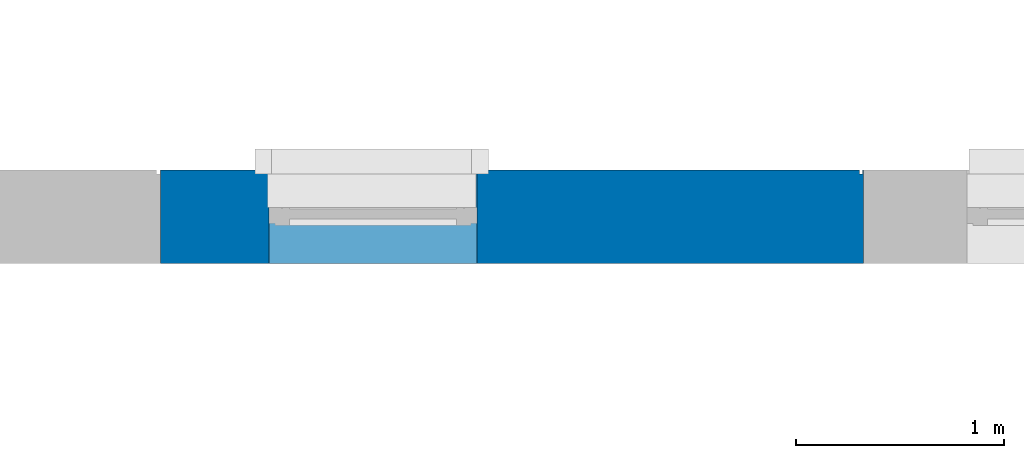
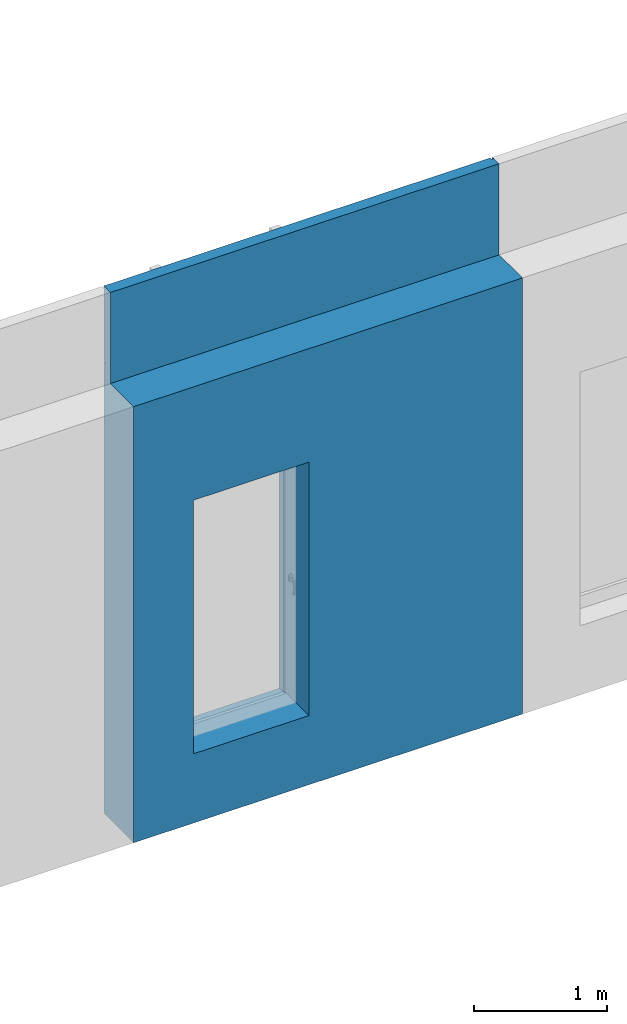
# One storey, part 22 of 33: 1 wall, 4 openings.
"""IFC2X3 building model written with IfcOpenShell, lengths in millimetres."""

from ifc_helpers import new_model, entity, si_unit, converted_unit, derived_unit, direction, frame, frame_2d, origin, origin_2d_with_axis, place, context, subcontext, project, spatial, polyline, rectangle, extrude, clip, bounded_halfspace, faceted_brep, material, layer, layer_set, layer_usage, type_object, element, save


model = new_model("IFC2X3")

# Units and contexts
model_context = context("Model", 3, precision=0.01, world=origin(), true_north=direction((6.12303176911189e-17, 1.0)))
body_context = subcontext(model_context, "Body", "Model", "MODEL_VIEW")
ifc_project = project(units=[si_unit("LENGTHUNIT", "METRE", prefix="MILLI"), si_unit("AREAUNIT", "SQUARE_METRE"), si_unit("VOLUMEUNIT", "CUBIC_METRE"), converted_unit("PLANEANGLEUNIT", "DEGREE", entity("IfcRatioMeasure", 0.0174532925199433), si_unit("PLANEANGLEUNIT", "RADIAN"), dimensions=[0, 0, 0, 0, 0, 0, 0]), si_unit("MASSUNIT", "GRAM", prefix="KILO"), derived_unit("MASSDENSITYUNIT", [(si_unit("MASSUNIT", "GRAM", prefix="KILO"), 1), (si_unit("LENGTHUNIT", "METRE"), -3)]), si_unit("TIMEUNIT", "SECOND"), si_unit("FREQUENCYUNIT", "HERTZ"), si_unit("THERMODYNAMICTEMPERATUREUNIT", "DEGREE_CELSIUS"), derived_unit("THERMALTRANSMITTANCEUNIT", [(si_unit("MASSUNIT", "GRAM", prefix="KILO"), 1), (si_unit("THERMODYNAMICTEMPERATUREUNIT", "KELVIN"), -1), (si_unit("TIMEUNIT", "SECOND"), -3)]), derived_unit("VOLUMETRICFLOWRATEUNIT", [(si_unit("LENGTHUNIT", "METRE"), 3), (si_unit("TIMEUNIT", "SECOND"), -1)]), si_unit("ELECTRICCURRENTUNIT", "AMPERE"), si_unit("ELECTRICVOLTAGEUNIT", "VOLT"), si_unit("POWERUNIT", "WATT"), si_unit("FORCEUNIT", "NEWTON", prefix="KILO"), si_unit("ILLUMINANCEUNIT", "LUX"), si_unit("LUMINOUSFLUXUNIT", "LUMEN"), si_unit("LUMINOUSINTENSITYUNIT", "CANDELA"), derived_unit("USERDEFINED", [(si_unit("MASSUNIT", "GRAM", prefix="KILO"), -1), (si_unit("LENGTHUNIT", "METRE"), -2), (si_unit("TIMEUNIT", "SECOND"), 3), (si_unit("LUMINOUSFLUXUNIT", "LUMEN"), 1)]), derived_unit("LINEARVELOCITYUNIT", [(si_unit("LENGTHUNIT", "METRE"), 1), (si_unit("TIMEUNIT", "SECOND"), -1)]), si_unit("PRESSUREUNIT", "PASCAL"), derived_unit("USERDEFINED", [(si_unit("LENGTHUNIT", "METRE"), -2), (si_unit("MASSUNIT", "GRAM", prefix="KILO"), 1), (si_unit("TIMEUNIT", "SECOND"), -2)])], contexts=[model_context])

# Site, building, storey
site_placement = place(None, origin())
site = spatial("IfcSite", under=ifc_project, at=site_placement, Name="Default", CompositionType="ELEMENT")
building_placement = place(site_placement, origin())
building = spatial("IfcBuilding", under=site, at=building_placement, CompositionType="ELEMENT")
storey_placement = place(building_placement, frame((0.0, 0.0, 4000.0)))
storey = spatial("IfcBuildingStorey", under=building, at=storey_placement, Name="2. KORRUS", CompositionType="ELEMENT", Elevation=4000.0)

# Wall, openings
ifc_material_1 = material(Name="RECKLI 1 173 THUR by Polantis 2016-toon3")
ifc_layer_1 = layer(ifc_material_1, 100.0)
ifc_material_2 = material(Name="Soojusisolatsioon EPS")
ifc_layer_2 = layer(ifc_material_2, 200.0)
ifc_material_3 = material(Name="r/b")
ifc_layer_3 = layer(ifc_material_3, 150.0)
ifc_layer_set = layer_set([ifc_layer_1, ifc_layer_2, ifc_layer_3], Name="Basic Wall:VS-1_toon-b")
ifc_layer_usage = layer_usage(ifc_layer_set, "AXIS2", "NEGATIVE", 225.0)
wall_type = type_object("IfcWallType", Name="Basic Wall:VS-1_toon-b", PredefinedType="STANDARD", material=ifc_layer_set)
wall_placement = place(storey_placement, frame((14880.3475962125, 21725.0517807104, -135.0)))
wall = element("IfcWallStandardCase", 1, at=wall_placement, inside=storey, type_object=wall_type, material=ifc_layer_usage, Name="Basic Wall:VS-1_toon-b", ObjectType="Basic Wall:VS-1_toon-b", context=body_context, shape_type="Clipping", body=[
    clip(clip(extrude(rectangle(XDim=3373.00529480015, YDim=450.000000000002, at=frame_2d((1686.50264740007, 1.09423581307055e-12), x_axis=(-1.0, 0.0))), origin(), (0.0, 0.0, 1.0), 4835.0), bounded_halfspace(frame((0.0, -225.0, 4000.0), z_axis=(0.0, 0.0, 1.0), x_axis=(0.0, 1.0, 0.0)), False, frame((0.0, -225.0, 4000.0)), polyline([(0.0, 0.0), (3373.00529480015, 0.0), (3373.00529480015, 350.0), (0.0, 350.0), (0.0, 0.0)]))), bounded_halfspace(frame((0.0, -225.0, 4000.0), z_axis=(0.0, 0.0, 1.0), x_axis=(0.0, 1.0, 0.0)), False, frame((0.0, -225.0, 4000.0)), polyline([(0.0, 0.0), (3373.00529480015, 0.0), (3373.00529480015, 350.0), (0.0, 350.0), (0.0, 0.0)]))),
])
opening_1_placement = place(wall_placement, frame((-15330.3475962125, -22175.0517807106, 4.0)))
element("IfcOpeningElement", 2, at=opening_1_placement, cuts=wall, Name="Basic Wall:VS-1_toon-b", ObjectType="Opening", context=body_context, shape_type="Brep", body=[
    faceted_brep([(11850.0, 20.0, 16.0), (11850.0, 0.0, 16.0), (11850.0, 0.0, 0.0), (11850.0, 20.0, 0.0), (4260.0, 20.0, 16.0), (4260.0, 20.0, 0.0), (4260.0, 0.0, 0.0), (4260.0, 0.0, 16.0)], [[[0, 1, 2, 3]], [[4, 5, 6, 7]], [[1, 0, 4, 7]], [[2, 1, 7, 6]], [[3, 2, 6, 5]], [[0, 3, 5, 4]]]),
    faceted_brep([(20.0, 28480.0, 16.0), (20.0, 28480.0, 0.0), (0.0, 28500.0, 0.0), (0.0, 28500.0, 16.0), (20.0, 23740.0, 16.0), (0.0, 23740.0, 16.0), (0.0, 23740.0, 0.0), (20.0, 23740.0, 0.0)], [[[0, 1, 2, 3]], [[4, 5, 6, 7]], [[1, 0, 4, 7]], [[2, 1, 7, 6]], [[3, 2, 6, 5]], [[0, 3, 5, 4]]]),
    faceted_brep([(10080.0, 22380.0517807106, 16.0), (10100.0, 22400.0517807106, 16.0), (10100.0, 22400.0517807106, 0.0), (10080.0, 22380.0517807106, 0.0), (15330.3475962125, 22380.0517807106, 16.0), (15330.3475962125, 22380.0517807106, 0.0), (15330.3475962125, 22400.0517807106, 0.0), (15330.3475962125, 22400.0517807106, 16.0)], [[[0, 1, 2, 3]], [[4, 5, 6, 7]], [[1, 0, 4, 7]], [[2, 1, 7, 6]], [[3, 2, 6, 5]], [[0, 3, 5, 4]]]),
    faceted_brep([(20.0, 28480.0, 16.0), (0.0, 28500.0, 16.0), (0.0, 28500.0, 0.0), (20.0, 28480.0, 0.0), (4360.0, 28480.0, 16.0), (4360.0, 28480.0, 0.0), (4360.0, 28500.0, 0.0), (4360.0, 28500.0, 16.0)], [[[0, 1, 2, 3]], [[4, 5, 6, 7]], [[1, 0, 4, 7]], [[2, 1, 7, 6]], [[3, 2, 6, 5]], [[0, 3, 5, 4]]]),
    faceted_brep([(40380.0, 20.0, 16.0), (40400.0, 0.0, 16.0), (40400.0, 0.0, 0.0), (40380.0, 20.0, 0.0), (35250.0, 20.0, 16.0), (35250.0, 20.0, 0.0), (35250.0, 0.0, 0.0), (35250.0, 0.0, 16.0)], [[[0, 1, 2, 3]], [[4, 5, 6, 7]], [[1, 0, 4, 7]], [[2, 1, 7, 6]], [[3, 2, 6, 5]], [[0, 3, 5, 4]]]),
    faceted_brep([(34420.1035702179, 22380.0517807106, 16.0), (34420.1035702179, 22400.0517807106, 16.0), (34420.1035702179, 22400.0517807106, 0.0), (34420.1035702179, 22380.0517807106, 0.0), (40380.0, 22380.0517807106, 16.0), (40380.0, 22380.0517807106, 0.0), (40400.0, 22400.0517807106, 0.0), (40400.0, 22400.0517807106, 16.0)], [[[0, 1, 2, 3]], [[4, 5, 6, 7]], [[1, 0, 4, 7]], [[2, 1, 7, 6]], [[3, 2, 6, 5]], [[0, 3, 5, 4]]]),
    faceted_brep([(29113.2161487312, 22380.0517807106, 16.0), (29113.2161487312, 22400.0517807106, 16.0), (29113.2161487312, 22400.0517807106, 0.0), (29113.2161487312, 22380.0517807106, 0.0), (34420.1035702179, 22380.0517807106, 16.0), (34420.1035702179, 22380.0517807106, 0.0), (34420.1035702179, 22400.0517807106, 0.0), (34420.1035702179, 22400.0517807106, 16.0)], [[[0, 1, 2, 3]], [[4, 5, 6, 7]], [[1, 0, 4, 7]], [[2, 1, 7, 6]], [[3, 2, 6, 5]], [[0, 3, 5, 4]]]),
    faceted_brep([(10080.0, 28480.0, 16.0), (10100.0, 28500.0, 16.0), (10100.0, 28500.0, 0.0), (10080.0, 28480.0, 0.0), (10080.0, 22380.0517807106, 16.0), (10080.0, 22380.0517807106, 0.0), (10100.0, 22400.0517807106, 0.0), (10100.0, 22400.0517807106, 16.0)], [[[0, 1, 2, 3]], [[4, 5, 6, 7]], [[1, 0, 4, 7]], [[2, 1, 7, 6]], [[3, 2, 6, 5]], [[0, 3, 5, 4]]]),
    faceted_brep([(4260.0, 20.0, 16.0), (4260.0, 0.0, 16.0), (4260.0, 0.0, 0.0), (4260.0, 20.0, 0.0), (0.0, 20.0, 16.0), (0.0, 20.0, 0.0), (0.0, 0.0, 0.0), (0.0, 0.0, 16.0)], [[[0, 1, 2, 3]], [[4, 5, 6, 7]], [[1, 0, 4, 7]], [[2, 1, 7, 6]], [[3, 2, 6, 5]], [[0, 3, 5, 4]]]),
    faceted_brep([(40380.0, 4865.0, 16.0), (40400.0, 4865.0, 16.0), (40400.0, 4865.0, 0.0), (40380.0, 4865.0, 0.0), (40380.0, 20.0, 16.0), (40380.0, 20.0, 0.0), (40400.0, 0.0, 0.0), (40400.0, 0.0, 16.0)], [[[0, 1, 2, 3]], [[4, 5, 6, 7]], [[1, 0, 4, 7]], [[2, 1, 7, 6]], [[3, 2, 6, 5]], [[0, 3, 5, 4]]]),
    faceted_brep([(40380.0, 9093.33000000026, 16.0), (40400.0, 9093.33000000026, 16.0), (40400.0, 9093.33000000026, 0.0), (40380.0, 9093.33000000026, 0.0), (40380.0, 4865.0, 16.0), (40380.0, 4865.0, 0.0), (40400.0, 4865.0, 0.0), (40400.0, 4865.0, 16.0)], [[[0, 1, 2, 3]], [[4, 5, 6, 7]], [[1, 0, 4, 7]], [[2, 1, 7, 6]], [[3, 2, 6, 5]], [[0, 3, 5, 4]]]),
    faceted_brep([(40380.0, 13210.0, 16.0), (40400.0, 13210.0, 16.0), (40400.0, 13210.0, 0.0), (40380.0, 13210.0, 0.0), (40380.0, 9093.33000000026, 16.0), (40380.0, 9093.33000000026, 0.0), (40400.0, 9093.33000000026, 0.0), (40400.0, 9093.33000000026, 16.0)], [[[0, 1, 2, 3]], [[4, 5, 6, 7]], [[1, 0, 4, 7]], [[2, 1, 7, 6]], [[3, 2, 6, 5]], [[0, 3, 5, 4]]]),
    faceted_brep([(40380.0, 16240.0, 16.0), (40400.0, 16240.0, 16.0), (40400.0, 16240.0, 0.0), (40380.0, 16240.0, 0.0), (40380.0, 13210.0, 16.0), (40380.0, 13210.0, 0.0), (40400.0, 13210.0, 0.0), (40400.0, 13210.0, 16.0)], [[[0, 1, 2, 3]], [[4, 5, 6, 7]], [[1, 0, 4, 7]], [[2, 1, 7, 6]], [[3, 2, 6, 5]], [[0, 3, 5, 4]]]),
    faceted_brep([(40380.0, 22380.0517807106, 16.0), (40400.0, 22400.0517807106, 16.0), (40400.0, 22400.0517807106, 0.0), (40380.0, 22380.0517807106, 0.0), (40380.0, 16240.0, 16.0), (40380.0, 16240.0, 0.0), (40400.0, 16240.0, 0.0), (40400.0, 16240.0, 16.0)], [[[0, 1, 2, 3]], [[4, 5, 6, 7]], [[1, 0, 4, 7]], [[2, 1, 7, 6]], [[3, 2, 6, 5]], [[0, 3, 5, 4]]]),
    faceted_brep([(22535.0, 22380.0517807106, 16.0), (22535.0, 22400.0517807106, 16.0), (22535.0, 22400.0517807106, 0.0), (22535.0, 22380.0517807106, 0.0), (29113.2161487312, 22380.0517807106, 16.0), (29113.2161487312, 22380.0517807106, 0.0), (29113.2161487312, 22400.0517807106, 0.0), (29113.2161487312, 22400.0517807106, 16.0)], [[[0, 1, 2, 3]], [[4, 5, 6, 7]], [[1, 0, 4, 7]], [[2, 1, 7, 6]], [[3, 2, 6, 5]], [[0, 3, 5, 4]]]),
    faceted_brep([(18703.3528910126, 22380.0517807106, 16.0), (18703.3528910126, 22400.0517807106, 16.0), (18703.3528910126, 22400.0517807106, 0.0), (18703.3528910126, 22380.0517807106, 0.0), (22535.0, 22380.0517807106, 16.0), (22535.0, 22380.0517807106, 0.0), (22535.0, 22400.0517807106, 0.0), (22535.0, 22400.0517807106, 16.0)], [[[0, 1, 2, 3]], [[4, 5, 6, 7]], [[1, 0, 4, 7]], [[2, 1, 7, 6]], [[3, 2, 6, 5]], [[0, 3, 5, 4]]]),
    faceted_brep([(15330.3475962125, 22380.0517807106, 16.0), (15330.3475962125, 22400.0517807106, 16.0), (15330.3475962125, 22400.0517807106, 0.0), (15330.3475962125, 22380.0517807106, 0.0), (18703.3528910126, 22380.0517807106, 16.0), (18703.3528910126, 22380.0517807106, 0.0), (18703.3528910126, 22400.0517807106, 0.0), (18703.3528910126, 22400.0517807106, 16.0)], [[[0, 1, 2, 3]], [[4, 5, 6, 7]], [[1, 0, 4, 7]], [[2, 1, 7, 6]], [[3, 2, 6, 5]], [[0, 3, 5, 4]]]),
    faceted_brep([(4360.0, 28480.0, 16.0), (4360.0, 28500.0, 16.0), (4360.0, 28500.0, 0.0), (4360.0, 28480.0, 0.0), (10080.0, 28480.0, 16.0), (10080.0, 28480.0, 0.0), (10100.0, 28500.0, 0.0), (10100.0, 28500.0, 16.0)], [[[0, 1, 2, 3]], [[4, 5, 6, 7]], [[1, 0, 4, 7]], [[2, 1, 7, 6]], [[3, 2, 6, 5]], [[0, 3, 5, 4]]]),
    faceted_brep([(20.0, 23740.0, 16.0), (20.0, 23740.0, 0.0), (0.0, 23740.0, 0.0), (0.0, 23740.0, 16.0), (20.0, 16890.0006972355, 16.0), (0.0, 16890.0006972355, 16.0), (0.0, 16890.0006972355, 0.0), (20.0, 16890.0006972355, 0.0)], [[[0, 1, 2, 3]], [[4, 5, 6, 7]], [[1, 0, 4, 7]], [[2, 1, 7, 6]], [[3, 2, 6, 5]], [[0, 3, 5, 4]]]),
    faceted_brep([(20.0, 16890.0006972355, 16.0), (20.0, 16890.0006972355, 0.0), (0.0, 16890.0006972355, 0.0), (0.0, 16890.0006972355, 16.0), (20.0, 13460.0, 16.0), (0.0, 13460.0, 16.0), (0.0, 13460.0, 0.0), (20.0, 13460.0, 0.0)], [[[0, 1, 2, 3]], [[4, 5, 6, 7]], [[1, 0, 4, 7]], [[2, 1, 7, 6]], [[3, 2, 6, 5]], [[0, 3, 5, 4]]]),
])
opening_2_placement = place(wall_placement, origin())
element("IfcOpeningElement", 3, at=opening_2_placement, cuts=wall, Name="Basic Wall:VS-1_toon-b", ObjectType="Recess", context=body_context, shape_type="SweptSolid", body=[
    extrude(rectangle(XDim=4265.0, YDim=16.0000000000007, at=origin_2d_with_axis()), frame((3361.00529480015, 205.0, -2132.5), z_axis=(0.0, 1.0, 0.0), x_axis=(0.0, 0.0, 1.0)), (0.0, 0.0, 1.0), 19.9999999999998),
    extrude(rectangle(XDim=4835.0, YDim=16.0000000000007, at=frame_2d((2.27373675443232e-13, 0.0), x_axis=(1.0, 0.0))), frame((3361.00529480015, 205.0, 2417.5), z_axis=(0.0, 1.0, 0.0), x_axis=(0.0, 0.0, 1.0)), (0.0, 0.0, 1.0), 19.9999999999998),
])
opening_3_placement = place(wall_placement, origin())
element("IfcOpeningElement", 4, at=opening_3_placement, cuts=wall, Name="Basic Wall:VS-1_toon-b", ObjectType="Opening", context=body_context, shape_type="SweptSolid", body=[
    extrude(rectangle(XDim=15.9999999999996, YDim=7590.0, at=frame_2d((0.0, -5.40900657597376e-13), x_axis=(0.0, 1.0))), frame((-7275.34759621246, -22175.0517807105, 4147.0), z_axis=(0.0, 1.0, 0.0), x_axis=(-1.0, 0.0, 0.0)), (0.0, 0.0, 1.0), 20.0),
    extrude(rectangle(XDim=15.9999999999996, YDim=20.0, at=frame_2d((5.40900657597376e-13, -3.37507799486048e-14), x_axis=(1.0, 0.0))), frame((-15320.3475962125, 1564.94821928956, 4147.0), z_axis=(0.0, 1.0, 0.0), x_axis=(0.0, 0.0, -1.0)), (0.0, 0.0, 1.0), 4660.0),
    extrude(rectangle(XDim=15.9999999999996, YDim=5230.3475962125, at=frame_2d((0.0, 5.40900657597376e-13), x_axis=(0.0, 1.0))), frame((-2615.17379810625, 205.0, 4147.0), z_axis=(0.0, 1.0, 0.0), x_axis=(1.0, 0.0, 0.0)), (0.0, 0.0, 1.0), 19.9999999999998),
    extrude(rectangle(XDim=15.9999999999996, YDim=4360.0, at=frame_2d((0.0, 5.40900657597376e-13), x_axis=(0.0, 1.0))), frame((-13150.3475962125, 6304.94821928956, 4147.0), z_axis=(0.0, 1.0, 0.0), x_axis=(1.0, 0.0, 0.0)), (0.0, 0.0, 1.0), 19.9999999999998),
    extrude(rectangle(XDim=15.9999999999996, YDim=5050.0, at=frame_2d((2.27373675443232e-12, 0.0), x_axis=(0.0, 1.0))), frame((22444.6524037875, -22175.0517807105, 4147.0), z_axis=(0.0, 1.0, 0.0), x_axis=(-1.0, 0.0, 0.0)), (0.0, 0.0, 1.0), 20.0),
    extrude(rectangle(XDim=15.9999999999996, YDim=5979.89642978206, at=frame_2d((-2.27373675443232e-12, 0.0), x_axis=(0.0, 1.0))), frame((22079.7041888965, 205.0, 4147.0), z_axis=(0.0, 1.0, 0.0), x_axis=(1.0, 0.0, 0.0)), (0.0, 0.0, 1.0), 19.9999999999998),
    extrude(rectangle(XDim=15.9999999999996, YDim=5306.88742148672, at=frame_2d((2.04636307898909e-12, 5.40900657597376e-13), x_axis=(0.0, 1.0))), frame((16436.3122632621, 205.0, 4147.0), z_axis=(0.0, 1.0, 0.0), x_axis=(1.0, 0.0, 0.0)), (0.0, 0.0, 1.0), 19.9999999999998),
    extrude(rectangle(XDim=15.9999999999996, YDim=19.9999999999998, at=frame_2d((0.0, 5.40900657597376e-13), x_axis=(0.0, 1.0))), frame((-5240.3475962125, 125.0, 4147.0), z_axis=(0.0, 1.0, 0.0), x_axis=(1.0, 0.0, 0.0)), (0.0, 0.0, 1.0), 6099.94821928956),
    extrude(rectangle(XDim=15.9999999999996, YDim=4160.00000000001, at=frame_2d((0.0, -5.40900657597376e-13), x_axis=(0.0, 1.0))), frame((-13150.3475962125, -22175.0517807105, 4147.0), z_axis=(0.0, 1.0, 0.0), x_axis=(-1.0, 0.0, 0.0)), (0.0, 0.0, 1.0), 20.0),
    extrude(rectangle(XDim=15.9999999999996, YDim=20.0000000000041, at=frame_2d((4.33164615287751e-12, 5.40900657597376e-13), x_axis=(0.0, 1.0))), frame((25059.6524037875, -22175.0517807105, 4147.0), z_axis=(0.0, 1.0, 0.0), x_axis=(1.0, 0.0, 0.0)), (0.0, 0.0, 1.0), 4865.0),
    extrude(rectangle(XDim=15.9999999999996, YDim=20.0000000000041, at=frame_2d((-4.33164615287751e-12, -5.40900657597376e-13), x_axis=(0.0, 1.0))), frame((25059.6524037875, -17310.0517807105, 4147.0), z_axis=(0.0, 1.0, 0.0), x_axis=(1.0, 0.0, 0.0)), (0.0, 0.0, 1.0), 4228.33000000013),
    extrude(rectangle(XDim=15.9999999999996, YDim=20.0000000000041, at=frame_2d((-4.33164615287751e-12, -5.40900657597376e-13), x_axis=(0.0, 1.0))), frame((25059.6524037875, -13081.7217807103, 4147.0), z_axis=(0.0, 1.0, 0.0), x_axis=(1.0, 0.0, 0.0)), (0.0, 0.0, 1.0), 4236.66999997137),
    extrude(rectangle(XDim=15.9999999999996, YDim=20.0000000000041, at=frame_2d((4.33164615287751e-12, 5.40900657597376e-13), x_axis=(0.0, 1.0))), frame((25059.6524037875, -8845.05178073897, 4147.0), z_axis=(0.0, 1.0, 0.0), x_axis=(1.0, 0.0, 0.0)), (0.0, 0.0, 1.0), 2910.00000002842),
    extrude(rectangle(XDim=15.9999999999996, YDim=20.0000000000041, at=frame_2d((-4.33164615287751e-12, 5.40900657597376e-13), x_axis=(0.0, 1.0))), frame((25059.6524037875, -5935.05178071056, 4147.0), z_axis=(0.0, 1.0, 0.0), x_axis=(1.0, 0.0, 0.0)), (0.0, 0.0, 1.0), 6060.05178071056),
    extrude(rectangle(XDim=15.9999999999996, YDim=3831.64710898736, at=frame_2d((1.13686837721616e-12, 5.40900657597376e-13), x_axis=(0.0, 1.0))), frame((5288.82884929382, 205.0, 4147.0), z_axis=(0.0, 1.0, 0.0), x_axis=(1.0, 0.0, 0.0)), (0.0, 0.0, 1.0), 19.9999999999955),
    extrude(rectangle(XDim=15.9999999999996, YDim=3373.00529480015, at=frame_2d((0.0, 5.40900657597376e-13), x_axis=(0.0, 1.0))), frame((1686.50264740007, 205.0, 4147.0), z_axis=(0.0, 1.0, 0.0), x_axis=(1.0, 0.0, 0.0)), (0.0, 0.0, 1.0), 19.9999999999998),
    extrude(rectangle(XDim=15.9999999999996, YDim=5739.99999999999, at=frame_2d((-2.27373675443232e-13, 5.40900657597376e-13), x_axis=(0.0, 1.0))), frame((-8100.34759621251, 6304.94821928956, 4147.0), z_axis=(0.0, 1.0, 0.0), x_axis=(1.0, 0.0, 0.0)), (0.0, 0.0, 1.0), 19.9999999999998),
    extrude(rectangle(XDim=15.9999999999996, YDim=20.0, at=frame_2d((5.40900657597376e-13, -3.37507799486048e-14), x_axis=(1.0, 0.0))), frame((-15320.3475962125, -5285.05108347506, 4147.0), z_axis=(0.0, 1.0, 0.0), x_axis=(0.0, 0.0, -1.0)), (0.0, 0.0, 1.0), 6849.99930276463),
    extrude(rectangle(XDim=15.9999999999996, YDim=20.0, at=frame_2d((5.40900657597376e-13, 3.37507799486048e-14), x_axis=(1.0, 0.0))), frame((-15320.3475962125, -8715.05178073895, 4147.0), z_axis=(0.0, 1.0, 0.0), x_axis=(0.0, 0.0, -1.0)), (0.0, 0.0, 1.0), 3430.00069726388),
    extrude(rectangle(XDim=15.9999999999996, YDim=6578.21614873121, at=frame_2d((0.0, 5.40900657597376e-13), x_axis=(0.0, 1.0))), frame((10493.7604781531, 205.0, 4147.0), z_axis=(0.0, 1.0, 0.0), x_axis=(1.0, 0.0, 0.0)), (0.0, 0.0, 1.0), 19.9999999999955),
    extrude(rectangle(XDim=15.9999999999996, YDim=4110.0, at=frame_2d((1.13686837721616e-12, -5.40900657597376e-13), x_axis=(0.0, 1.0))), frame((-1425.34759621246, -22175.0517807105, 4147.0), z_axis=(0.0, 1.0, 0.0), x_axis=(-1.0, 0.0, 0.0)), (0.0, 0.0, 1.0), 19.9999999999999),
    extrude(rectangle(XDim=15.9999999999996, YDim=4600.0, at=frame_2d((-2.27373675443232e-12, -5.40900657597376e-13), x_axis=(0.0, 1.0))), frame((2929.65240378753, -22175.0517807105, 4147.0), z_axis=(0.0, 1.0, 0.0), x_axis=(-1.0, 0.0, 0.0)), (0.0, 0.0, 1.0), 20.0),
    extrude(rectangle(XDim=15.9999999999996, YDim=4600.0, at=frame_2d((2.27373675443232e-12, -5.40900657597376e-13), x_axis=(0.0, 1.0))), frame((7529.65240378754, -22175.0517807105, 4147.0), z_axis=(0.0, 1.0, 0.0), x_axis=(-1.0, 0.0, 0.0)), (0.0, 0.0, 1.0), 20.0),
    extrude(rectangle(XDim=15.9999999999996, YDim=5299.99999999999, at=frame_2d((-2.04636307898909e-12, -5.40900657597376e-13), x_axis=(0.0, 1.0))), frame((12479.6524037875, -22175.0517807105, 4147.0), z_axis=(0.0, 1.0, 0.0), x_axis=(-1.0, 0.0, 0.0)), (0.0, 0.0, 1.0), 20.0),
    extrude(rectangle(XDim=15.9999999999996, YDim=4790.0, at=frame_2d((0.0, -5.40900657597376e-13), x_axis=(0.0, 1.0))), frame((17524.6524037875, -22175.0517807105, 4147.0), z_axis=(0.0, 1.0, 0.0), x_axis=(-1.0, 0.0, 0.0)), (0.0, 0.0, 1.0), 20.0000000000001),
    extrude(rectangle(XDim=15.9999999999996, YDim=20.0, at=frame_2d((5.40900657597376e-13, -3.37507799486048e-14), x_axis=(1.0, 0.0))), frame((-15320.3475962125, -13439.9109855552, 4147.0), z_axis=(0.0, 1.0, 0.0), x_axis=(0.0, 0.0, -1.0)), (0.0, 0.0, 1.0), 4724.85920481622),
    extrude(rectangle(XDim=15.9999999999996, YDim=20.0, at=frame_2d((5.40900657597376e-13, -3.37507799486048e-14), x_axis=(1.0, 0.0))), frame((-15320.3475962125, -22175.0517807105, 4147.0), z_axis=(0.0, 1.0, 0.0), x_axis=(0.0, 0.0, -1.0)), (0.0, 0.0, 1.0), 8735.1407951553),
])
opening_4_placement = place(wall_placement, frame((519.652403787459, -225.0, 613.057009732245)))
element("IfcOpeningElement", 5, at=opening_4_placement, cuts=wall, Name="Basic Wall:VS-1_toon-b", ObjectType="Opening", context=body_context, shape_type="Brep", body=[
    faceted_brep([(0.0, 0.0, 2346.94299026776), (0.0, 0.0, 21.9429902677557), (1000.0, 0.0, 21.9429902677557), (1000.0, 0.0, 2346.94299026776), (1000.0, 450.0, 2721.94299026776), (1000.0, 450.0, 0.0), (0.0, 450.0, 0.0), (0.0, 450.0, 2721.94299026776), (0.0, 250.0, 2346.94299026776), (0.0, 250.0, 2721.94299026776), (0.0, 325.555118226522, 21.9429902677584), (1000.0, 325.555118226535, 21.9429902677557), (1000.0, 250.0, 2721.94299026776), (1000.0, 250.0, 2346.94299026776)], [[[0, 1, 2, 3]], [[4, 5, 6, 7]], [[0, 8, 9, 7, 6, 10, 1]], [[1, 10, 11, 2]], [[2, 11, 5, 4, 12, 13, 3]], [[3, 13, 8, 0]], [[9, 8, 13, 12]], [[12, 4, 7, 9]], [[6, 5, 11, 10]]]),
])

save(model, "model.ifc")
